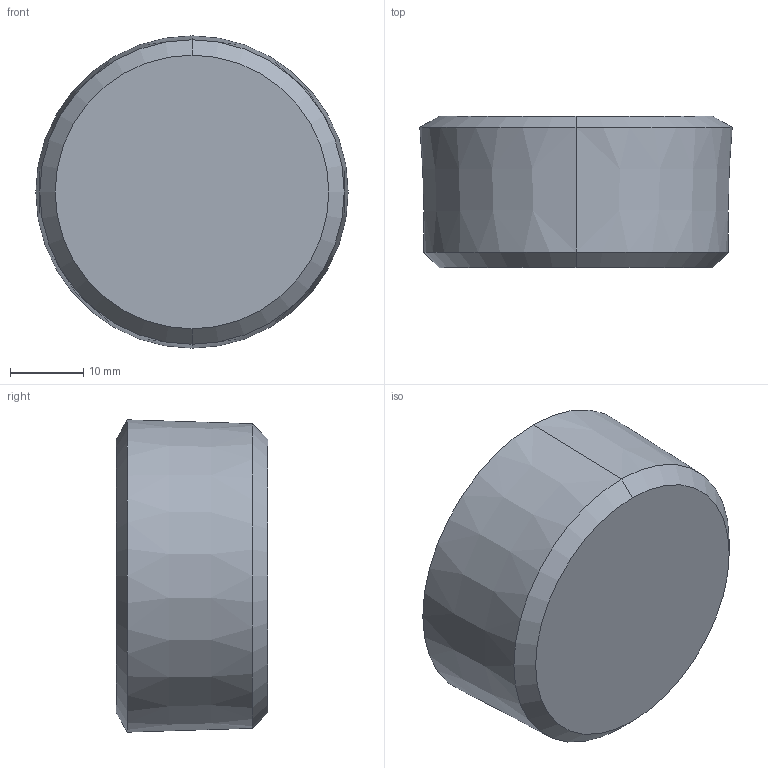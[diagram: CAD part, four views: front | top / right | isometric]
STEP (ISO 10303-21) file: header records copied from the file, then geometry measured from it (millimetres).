
FILE_DESCRIPTION (( 'STEP AP203' ), '1' );
FILE_NAME ('SS125-O.step', '2022-02-03T00:17:39', ( 'Microsoft Corporation' ), ( 'MS' ), 'SwSTEP 2.0', 'SolidWorks 2019', '' );
FILE_SCHEMA (( 'CONFIG_CONTROL_DESIGN' ));
Length unit declared in the file: inch
Products named in the file (1): SS125-O
Bounding box: 42.55 x 20.62 x 42.55 mm (x, y, z)
Volume: 23885.9 mm3; surface area: 6177 mm2
Topology: 1 solids, 1 shells, 20 faces, 44 edges, 28 vertices
Faces by surface type: plane 10, cone 8, torus 2
Entity records: 695 total; most frequent: CARTESIAN_POINT 173, DIRECTION 94, ORIENTED_EDGE 88, EDGE_CURVE 44, AXIS2_PLACEMENT_3D 37, VERTEX_POINT 28, EDGE_LOOP 22, LINE 20
